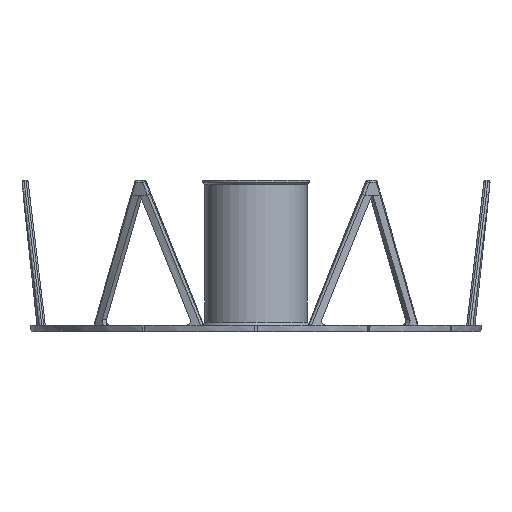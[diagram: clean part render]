
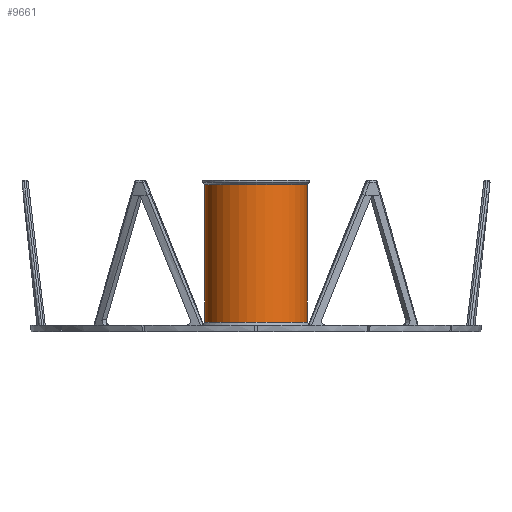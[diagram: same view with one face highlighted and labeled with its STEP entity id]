
A CAD part, left-side view. The second image highlights one B-rep face of the part: STEP entity #9661.
In plain terms, the highlighted cylindrical face has radius 24 mm (diameter 48 mm), a full revolution.
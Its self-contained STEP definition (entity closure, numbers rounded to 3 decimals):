
#395=CYLINDRICAL_SURFACE('',#10694,24.);
#1327=CIRCLE('',#10693,24.);
#1328=CIRCLE('',#10695,24.);
#1764=FACE_OUTER_BOUND('',#2329,.T.);
#2329=EDGE_LOOP('',(#8029,#8030,#8031,#8032));
#3109=LINE('',#16689,#3698);
#3698=VECTOR('',#13089,24.);
#4500=VERTEX_POINT('',#16683);
#4501=VERTEX_POINT('',#16687);
#5826=EDGE_CURVE('',#4500,#4500,#1327,.T.);
#5828=EDGE_CURVE('',#4501,#4501,#1328,.T.);
#5829=EDGE_CURVE('',#4501,#4500,#3109,.T.);
#8029=ORIENTED_EDGE('',*,*,#5828,.F.);
#8030=ORIENTED_EDGE('',*,*,#5829,.T.);
#8031=ORIENTED_EDGE('',*,*,#5826,.T.);
#8032=ORIENTED_EDGE('',*,*,#5829,.F.);
#9661=ADVANCED_FACE('',(#1764),#395,.T.);
#10693=AXIS2_PLACEMENT_3D('',#16684,#13082,#13083);
#10694=AXIS2_PLACEMENT_3D('',#16686,#13085,#13086);
#10695=AXIS2_PLACEMENT_3D('',#16688,#13087,#13088);
#13082=DIRECTION('center_axis',(0.,0.,1.));
#13083=DIRECTION('ref_axis',(1.,0.,0.));
#13085=DIRECTION('center_axis',(0.,0.,1.));
#13086=DIRECTION('ref_axis',(1.,0.,0.));
#13087=DIRECTION('center_axis',(0.,0.,1.));
#13088=DIRECTION('ref_axis',(1.,0.,0.));
#13089=DIRECTION('',(0.,0.,-1.));
#16683=CARTESIAN_POINT('',(-24.,0.,4.5));
#16684=CARTESIAN_POINT('Origin',(0.,0.,4.5));
#16686=CARTESIAN_POINT('Origin',(0.,0.,36.75));
#16687=CARTESIAN_POINT('',(-24.,0.,69.));
#16688=CARTESIAN_POINT('Origin',(0.,0.,69.));
#16689=CARTESIAN_POINT('',(-24.,0.,36.75));
